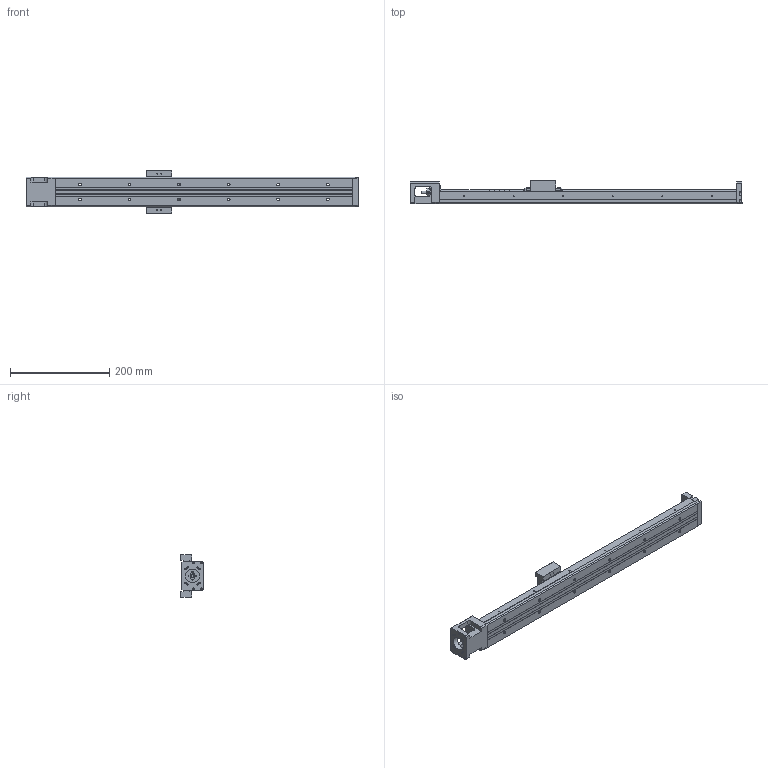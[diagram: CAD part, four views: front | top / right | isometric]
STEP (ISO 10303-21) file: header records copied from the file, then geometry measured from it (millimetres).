
FILE_DESCRIPTION(/* description */ (''),/* implementation_level */ '2;1');
FILE_NAME(/* name */ 'KP33N-600.stp',/* time_stamp */ '2019-02-25T15:10:12+08:00',/* author */ (''),/* organization */ (''),/* preprocessor_version */ 'ST-DEVELOPER v11',/* originating_system */ 'SIEMENS UGS NX 6.0',/* authorisation */ '');
FILE_SCHEMA (('CONFIG_CONTROL_DESIGN'));
Length unit declared in the file: millimetre
Products named in the file (1): darrFF5Egxcj
Bounding box: 670 x 47.95 x 86 mm (x, y, z)
Volume: 758797.9 mm3; surface area: 211732 mm2
Topology: 6 solids, 15 shells, 745 faces, 1868 edges, 1235 vertices
Faces by surface type: plane 436, cylinder 222, bspline 31, cone 24, extrusion 21, torus 9, revolution 2
Full cylindrical faces by diameter (mm): 1.6 x7, 1.65 x4, 2.15 x6, 2.42 x4, 2.45 x4, 2.5 x22, 3 x3, 3.2 x4, 3.3 x4, 3.4 x3, 3.5 x10, 3.969 x1, 4 x6, 4.001 x1, 4.135 x4, 4.2 x4, 5.5 x12, 6 x5, 7.6 x1, 8 x5, 9.5 x12, 10.72 x3, 11.8 x2, 12 x6, 12.8 x1, 13 x2, 14 x1, 17.38 x3, 21.5 x1, 22 x2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
Entity records: 33531 total; most frequent: CARTESIAN_POINT 16715, DIRECTION 3366, ORIENTED_EDGE 3210, EDGE_CURVE 1605, AXIS2_PLACEMENT_3D 1212, VERTEX_POINT 1151, EDGE_LOOP 1076, VECTOR 940
